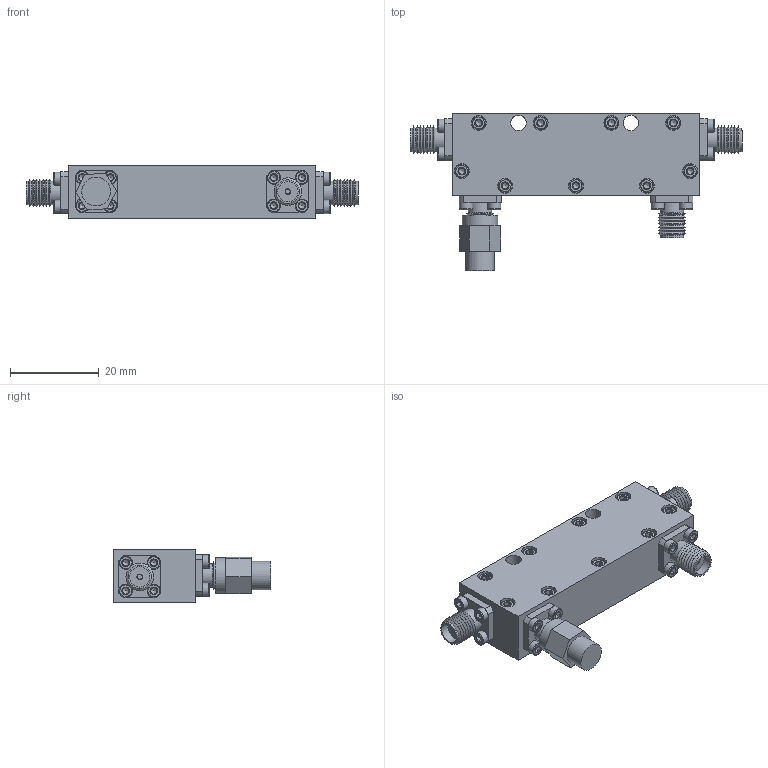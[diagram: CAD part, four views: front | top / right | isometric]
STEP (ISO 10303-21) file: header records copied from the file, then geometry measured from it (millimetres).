
FILE_DESCRIPTION(/* description */ ('Unknown'),/* implementation_level */ '2;1');
FILE_NAME(/* name */ 'DETI_MICROWAVE_DIRECTIONAL_COUPLER_011053_STEP',/* time_stamp */ '2021-06-08T13:43:16+02:00',/* author */ ('ALG'),/* organization */ ('DETI'),/* preprocessor_version */ 'ST-DEVELOPER v16.7',/* originating_system */ 'Solid Edge',/* authorisation */ 'Unknown');
FILE_SCHEMA (('AUTOMOTIVE_DESIGN {1 0 10303 214 3 1 1}'));
Length unit declared in the file: millimetre
Products named in the file (1): CD-1-2000-18000-20-30-SF-SF-SF2
Bounding box: 75 x 35.6 x 12.1 mm (x, y, z)
Volume: 14026.2 mm3; surface area: 7218.2 mm2
Topology: 1 solids, 52 shells, 696 faces, 1535 edges, 998 vertices
Faces by surface type: plane 341, cylinder 154, cone 151, torus 50
Full cylindrical faces by diameter (mm): 0.8 x1, 1.1 x4, 1.221 x21, 1.27 x7, 1.6 x25, 1.8 x25, 3 x25, 3.4 x9, 3.5 x2, 4.1 x4, 4.6 x3, 5.3 x7, 6.5 x1, 6.8 x1, 8 x1
Entity records: 20875 total; most frequent: CARTESIAN_POINT 2918, DIRECTION 2760, ORIENTED_EDGE 2080, AXIS2_PLACEMENT_3D 1179, FACE_BOUND 1173, EDGE_LOOP 1148, EDGE_CURVE 1040, VERTEX_POINT 863
